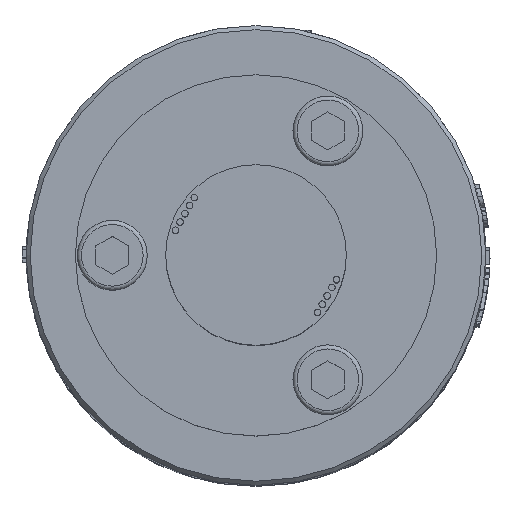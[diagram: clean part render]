
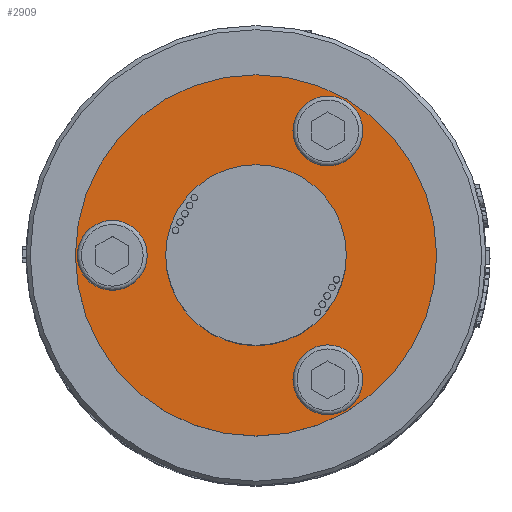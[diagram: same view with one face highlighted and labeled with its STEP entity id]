
A CAD part, top view. The second image highlights one B-rep face of the part: STEP entity #2909.
In plain terms, the highlighted planar face has unit normal (0, 0, 1).
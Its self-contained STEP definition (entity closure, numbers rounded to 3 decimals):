
#463=FACE_BOUND('',#6924,.T.);
#464=FACE_BOUND('',#6925,.T.);
#465=FACE_BOUND('',#6926,.T.);
#466=FACE_BOUND('',#6927,.T.);
#467=FACE_BOUND('',#6928,.T.);
#690=CIRCLE('',#21225,4.25);
#692=CIRCLE('',#21236,4.25);
#695=CIRCLE('',#21249,4.25);
#719=CIRCLE('',#21306,11.);
#720=CIRCLE('',#21308,22.);
#1315=PLANE('',#21309);
#2909=ADVANCED_FACE('',(#463,#464,#465,#466,#467),#1315,.T.);
#6924=EDGE_LOOP('',(#11721));
#6925=EDGE_LOOP('',(#11722));
#6926=EDGE_LOOP('',(#11723));
#6927=EDGE_LOOP('',(#11724));
#6928=EDGE_LOOP('',(#11725));
#11721=ORIENTED_EDGE('',*,*,#17493,.F.);
#11722=ORIENTED_EDGE('',*,*,#17507,.F.);
#11723=ORIENTED_EDGE('',*,*,#17528,.F.);
#11724=ORIENTED_EDGE('',*,*,#17571,.T.);
#11725=ORIENTED_EDGE('',*,*,#17570,.F.);
#14703=VERTEX_POINT('',#39211);
#14711=VERTEX_POINT('',#39242);
#14726=VERTEX_POINT('',#39288);
#14762=VERTEX_POINT('',#39399);
#14763=VERTEX_POINT('',#39402);
#17493=EDGE_CURVE('',#14703,#14703,#690,.T.);
#17507=EDGE_CURVE('',#14711,#14711,#692,.T.);
#17528=EDGE_CURVE('',#14726,#14726,#695,.T.);
#17570=EDGE_CURVE('',#14762,#14762,#719,.T.);
#17571=EDGE_CURVE('',#14763,#14763,#720,.T.);
#21225=AXIS2_PLACEMENT_3D('',#39210,#23828,#23829);
#21236=AXIS2_PLACEMENT_3D('',#39241,#23862,#23863);
#21249=AXIS2_PLACEMENT_3D('',#39287,#23906,#23907);
#21306=AXIS2_PLACEMENT_3D('',#39398,#24038,#24039);
#21308=AXIS2_PLACEMENT_3D('',#39401,#24042,#24043);
#21309=AXIS2_PLACEMENT_3D('',#39403,#24044,#24045);
#23828=DIRECTION('',(0.,0.,1.));
#23829=DIRECTION('',(-0.866,0.5,0.));
#23862=DIRECTION('',(0.,0.,1.));
#23863=DIRECTION('',(-0.866,0.5,0.));
#23906=DIRECTION('',(0.,0.,1.));
#23907=DIRECTION('',(-0.866,0.5,0.));
#24038=DIRECTION('',(0.,0.,1.));
#24039=DIRECTION('',(0.866,-0.5,0.));
#24042=DIRECTION('',(0.,0.,1.));
#24043=DIRECTION('',(0.866,-0.5,0.));
#24044=DIRECTION('',(0.,0.,1.));
#24045=DIRECTION('',(-0.866,0.5,0.));
#39210=CARTESIAN_POINT('',(8.75,-15.155,100.5));
#39211=CARTESIAN_POINT('',(5.069,-13.03,100.5));
#39241=CARTESIAN_POINT('',(8.75,15.155,100.5));
#39242=CARTESIAN_POINT('',(5.069,17.28,100.5));
#39287=CARTESIAN_POINT('',(-17.5,0.,100.5));
#39288=CARTESIAN_POINT('',(-21.181,2.125,100.5));
#39398=CARTESIAN_POINT('',(0.,0.,100.5));
#39399=CARTESIAN_POINT('',(9.526,-5.5,100.5));
#39401=CARTESIAN_POINT('',(0.,0.,100.5));
#39402=CARTESIAN_POINT('',(19.053,-11.,100.5));
#39403=CARTESIAN_POINT('',(0.,0.,100.5));
